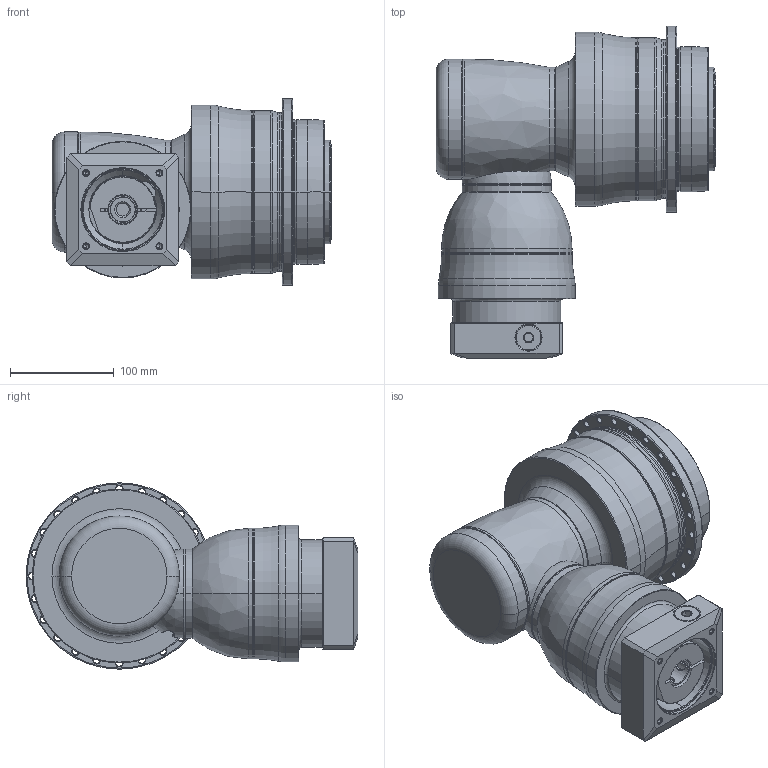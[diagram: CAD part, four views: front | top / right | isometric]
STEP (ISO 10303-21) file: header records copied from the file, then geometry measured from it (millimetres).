
FILE_DESCRIPTION((''),'2;1');
FILE_NAME('APK140_4ST_24-P0409510201_ASM','2018-10-04T',('D00080'),(''),'PRO/ENGINEER BY PARAMETRIC TECHNOLOGY CORPORATION, 2015240','PRO/ENGINEER BY PARAMETRIC TECHNOLOGY CORPORATION, 2015240','');
FILE_SCHEMA(('CONFIG_CONTROL_DESIGN'));
Length unit declared in the file: millimetre
Products named in the file (13): P1008400002; P1832500001; P0278501003; P0359501103; P1211500001; P1315400001; P1007401001; P1317410201; P0503500010; P0912353001; P0409510201; 21711418017; APK140_4ST_24-P0409510201_ASM
Assembly tree (12 placements, depth 2):
  APK140_4ST_24-P0409510201_ASM
    P1008400002
    P1832500001
    P0278501003
    P0359501103
    P1211500001
    P1315400001
    P1007401001
    P1317410201
    P0503500010
    P0912353001
    P0409510201
    21711418017
Bounding box: 270.3 x 320.5 x 180 mm (x, y, z)
Volume: 5317163.6 mm3; surface area: 559124.5 mm2
Topology: 13 solids, 38 shells, 784 faces, 1790 edges, 1078 vertices
Faces by surface type: cylinder 314, cone 219, plane 131, torus 82, bspline 36, sphere 2
Entity records: 28483 total; most frequent: CARTESIAN_POINT 10267, DIRECTION 4159, ORIENTED_EDGE 3390, AXIS2_PLACEMENT_3D 1781, EDGE_CURVE 1746, VERTEX_POINT 1078, CIRCLE 998, EDGE_LOOP 938
